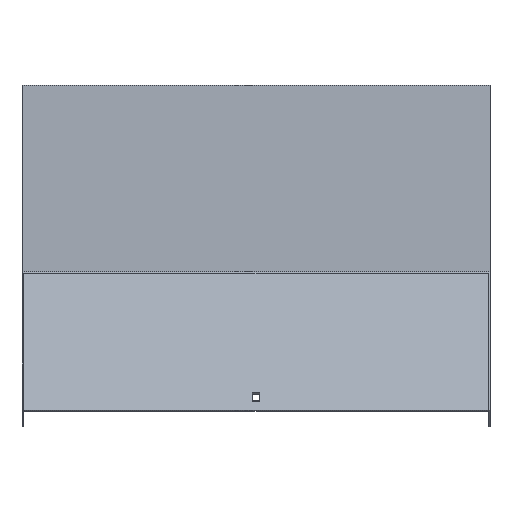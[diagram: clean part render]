
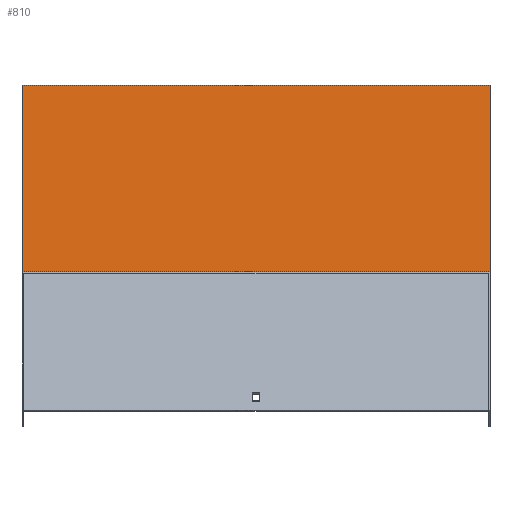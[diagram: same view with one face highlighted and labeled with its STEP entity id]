
A CAD part, top view. The second image highlights one B-rep face of the part: STEP entity #810.
In plain terms, the highlighted planar face has unit normal (0, 0.924, 0.383).
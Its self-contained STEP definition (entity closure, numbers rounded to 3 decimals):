
#5 = ORIENTED_EDGE ( 'NONE', *, *, #200, .T. ) ;
#37 = CARTESIAN_POINT ( 'NONE',  ( 201.5, 18.478, 172.654 ) ) ;
#93 = PLANE ( 'NONE',  #530 ) ;
#200 = EDGE_CURVE ( 'NONE', #273, #332, #657, .T. ) ;
#206 = VECTOR ( 'NONE', #457, 1000. ) ;
#245 = CARTESIAN_POINT ( 'NONE',  ( 201.5, -141.093, 557.891 ) ) ;
#266 = VECTOR ( 'NONE', #717, 1000. ) ;
#268 = EDGE_CURVE ( 'NONE', #273, #674, #626, .T. ) ;
#273 = VERTEX_POINT ( 'NONE', #687 ) ;
#332 = VERTEX_POINT ( 'NONE', #511 ) ;
#348 = ORIENTED_EDGE ( 'NONE', *, *, #749, .T. ) ;
#373 = LINE ( 'NONE', #440, #557 ) ;
#440 = CARTESIAN_POINT ( 'NONE',  ( -201.5, 18.478, 172.654 ) ) ;
#457 = DIRECTION ( 'NONE',  ( -1., 0., 0. ) ) ;
#487 = DIRECTION ( 'NONE',  ( 0., -0.383, 0.924 ) ) ;
#502 = CARTESIAN_POINT ( 'NONE',  ( 201.5, 18.478, 172.654 ) ) ;
#503 = CARTESIAN_POINT ( 'NONE',  ( -201.5, -141.093, 557.891 ) ) ;
#511 = CARTESIAN_POINT ( 'NONE',  ( -201.5, 20., 168.978 ) ) ;
#530 = AXIS2_PLACEMENT_3D ( 'NONE', #37, #778, #711 ) ;
#545 = ORIENTED_EDGE ( 'NONE', *, *, #550, .F. ) ;
#550 = EDGE_CURVE ( 'NONE', #674, #807, #779, .T. ) ;
#557 = VECTOR ( 'NONE', #825, 1000. ) ;
#568 = CARTESIAN_POINT ( 'NONE',  ( 201.5, 20., 168.978 ) ) ;
#626 = LINE ( 'NONE', #502, #700 ) ;
#657 = LINE ( 'NONE', #568, #206 ) ;
#674 = VERTEX_POINT ( 'NONE', #245 ) ;
#687 = CARTESIAN_POINT ( 'NONE',  ( 201.5, 20., 168.978 ) ) ;
#688 = FACE_OUTER_BOUND ( 'NONE', #782, .T. ) ;
#700 = VECTOR ( 'NONE', #487, 1000. ) ;
#711 = DIRECTION ( 'NONE',  ( 0., 0.383, -0.924 ) ) ;
#717 = DIRECTION ( 'NONE',  ( -1., 0., 0. ) ) ;
#749 = EDGE_CURVE ( 'NONE', #332, #807, #373, .T. ) ;
#771 = CARTESIAN_POINT ( 'NONE',  ( 201.5, -141.093, 557.891 ) ) ;
#778 = DIRECTION ( 'NONE',  ( 0., -0.924, -0.383 ) ) ;
#779 = LINE ( 'NONE', #771, #266 ) ;
#782 = EDGE_LOOP ( 'NONE', ( #348, #545, #852, #5 ) ) ;
#807 = VERTEX_POINT ( 'NONE', #503 ) ;
#810 = ADVANCED_FACE ( 'NONE', ( #688 ), #93, .F. ) ;
#825 = DIRECTION ( 'NONE',  ( 0., -0.383, 0.924 ) ) ;
#852 = ORIENTED_EDGE ( 'NONE', *, *, #268, .F. ) ;
